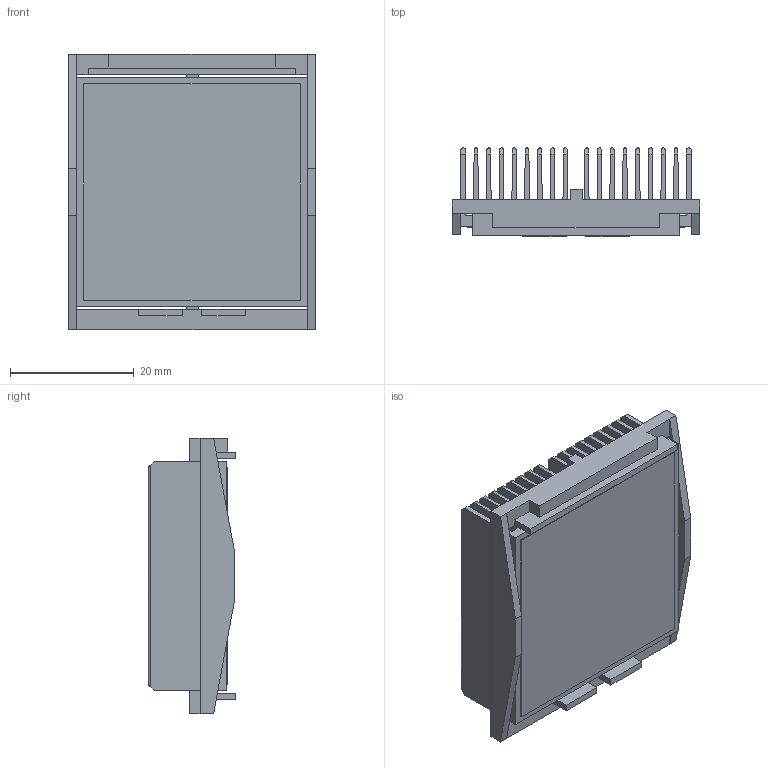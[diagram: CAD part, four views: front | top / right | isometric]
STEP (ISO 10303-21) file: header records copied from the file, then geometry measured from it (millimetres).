
FILE_DESCRIPTION (( 'STEP AP214' ), '1' );
FILE_NAME ('INL37.5001-13-1.7BU.STEP', '2023-03-01T15:45:56', ( '' ), ( '' ), 'SwSTEP 2.0', 'SolidWorks 2020', '' );
FILE_SCHEMA (( 'AUTOMOTIVE_DESIGN' ));
Length unit declared in the file: millimetre
Products named in the file (1): INL37.5001-13-1.7BU
Bounding box: 40.1 x 14.2 x 44.6 mm (x, y, z)
Volume: 9304.9 mm3; surface area: 22467.7 mm2
Topology: 3 solids, 3 shells, 198 faces, 578 edges, 384 vertices
Faces by surface type: plane 146, cylinder 52
Entity records: 8712 total; most frequent: CARTESIAN_POINT 1269, ORIENTED_EDGE 1156, DIRECTION 1008, EDGE_CURVE 578, VECTOR 474, LINE 474, VERTEX_POINT 384, AXIS2_PLACEMENT_3D 267
